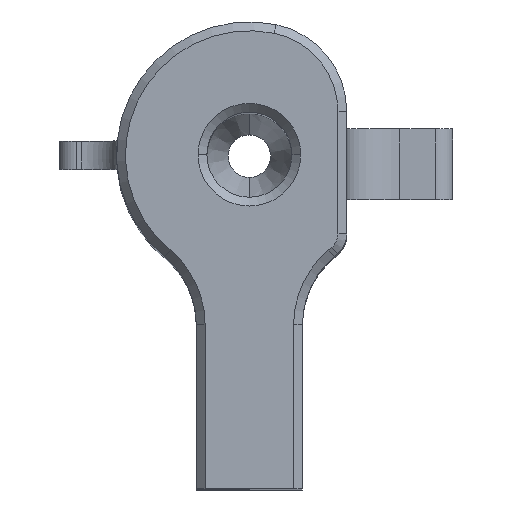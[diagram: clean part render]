
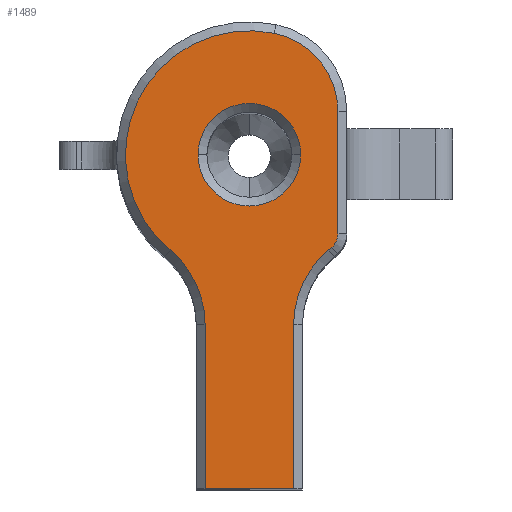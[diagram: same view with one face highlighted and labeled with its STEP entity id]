
A CAD part, top view. The second image highlights one B-rep face of the part: STEP entity #1489.
In plain terms, the highlighted planar face has unit normal (0, 0, 1).
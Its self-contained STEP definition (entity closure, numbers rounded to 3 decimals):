
#177=DIRECTION('',(0.,-1.,0.));
#178=VECTOR('',#177,9.269);
#179=CARTESIAN_POINT('',(2.5,-9.605,58.));
#180=LINE('',#179,#178);
#181=DIRECTION('',(-1.,0.,0.));
#182=VECTOR('',#181,5.);
#183=CARTESIAN_POINT('',(2.5,-18.874,58.));
#184=LINE('',#183,#182);
#185=DIRECTION('',(0.,1.,0.));
#186=VECTOR('',#185,9.269);
#187=CARTESIAN_POINT('',(-2.5,-18.874,58.));
#188=LINE('',#187,#186);
#189=CARTESIAN_POINT('',(-8.,-9.605,58.));
#190=DIRECTION('',(0.,0.,1.));
#191=DIRECTION('',(1.,0.,0.));
#192=AXIS2_PLACEMENT_3D('',#189,#190,#191);
#194=CARTESIAN_POINT('',(0.,0.,58.));
#195=DIRECTION('',(0.,0.,-1.));
#196=DIRECTION('',(-0.64,-0.768,0.));
#197=AXIS2_PLACEMENT_3D('',#194,#195,#196);
#199=CARTESIAN_POINT('',(0.5,2.449,58.));
#200=DIRECTION('',(0.,0.,-1.));
#201=DIRECTION('',(0.2,0.98,0.));
#202=AXIS2_PLACEMENT_3D('',#199,#200,#201);
#204=DIRECTION('',(0.,-1.,0.));
#205=VECTOR('',#204,6.922);
#206=CARTESIAN_POINT('',(5.,2.449,58.));
#207=LINE('',#206,#205);
#208=CARTESIAN_POINT('',(4.,-4.472,58.));
#209=DIRECTION('',(0.,0.,-1.));
#210=DIRECTION('',(1.,0.,0.));
#211=AXIS2_PLACEMENT_3D('',#208,#209,#210);
#213=CARTESIAN_POINT('',(0.,0.,58.));
#214=DIRECTION('',(0.,0.,-1.));
#215=DIRECTION('',(0.667,-0.745,0.));
#216=AXIS2_PLACEMENT_3D('',#213,#214,#215);
#218=CARTESIAN_POINT('',(8.,-9.605,58.));
#219=DIRECTION('',(0.,0.,1.));
#220=DIRECTION('',(-0.64,0.768,0.));
#221=AXIS2_PLACEMENT_3D('',#218,#219,#220);
#223=CARTESIAN_POINT('',(0.,0.,58.));
#224=DIRECTION('',(0.,0.,-1.));
#225=DIRECTION('',(1.,0.,0.));
#226=AXIS2_PLACEMENT_3D('',#223,#224,#225);
#228=CARTESIAN_POINT('',(0.,0.,58.));
#229=DIRECTION('',(0.,0.,-1.));
#230=DIRECTION('',(-1.,0.,0.));
#231=AXIS2_PLACEMENT_3D('',#228,#229,#230);
#1088=CARTESIAN_POINT('',(2.5,-18.874,58.));
#1090=VERTEX_POINT('',#1088);
#1091=CARTESIAN_POINT('',(2.5,-9.605,58.));
#1092=VERTEX_POINT('',#1091);
#1097=CARTESIAN_POINT('',(4.48,-5.379,58.));
#1098=VERTEX_POINT('',#1097);
#1101=CARTESIAN_POINT('',(4.667,-5.217,58.));
#1102=VERTEX_POINT('',#1101);
#1105=CARTESIAN_POINT('',(5.,-4.472,58.));
#1106=VERTEX_POINT('',#1105);
#1109=CARTESIAN_POINT('',(5.,2.449,58.));
#1110=VERTEX_POINT('',#1109);
#1113=CARTESIAN_POINT('',(1.4,6.859,58.));
#1114=VERTEX_POINT('',#1113);
#1117=CARTESIAN_POINT('',(-4.48,-5.379,58.));
#1118=VERTEX_POINT('',#1117);
#1121=CARTESIAN_POINT('',(-2.5,-9.605,58.));
#1122=VERTEX_POINT('',#1121);
#1123=CARTESIAN_POINT('',(-2.5,-18.874,58.));
#1125=VERTEX_POINT('',#1123);
#1151=CARTESIAN_POINT('',(2.9,0.,58.));
#1152=CARTESIAN_POINT('',(-2.9,0.,58.));
#1153=VERTEX_POINT('',#1151);
#1154=VERTEX_POINT('',#1152);
#1457=CARTESIAN_POINT('',(0.,0.,58.));
#1458=DIRECTION('',(0.,0.,1.));
#1459=DIRECTION('',(1.,0.,0.));
#1460=AXIS2_PLACEMENT_3D('',#1457,#1458,#1459);
#1461=PLANE('',#1460);
#1463=ORIENTED_EDGE('',*,*,#1462,.T.);
#1465=ORIENTED_EDGE('',*,*,#1464,.T.);
#1467=ORIENTED_EDGE('',*,*,#1466,.T.);
#1469=ORIENTED_EDGE('',*,*,#1468,.T.);
#1471=ORIENTED_EDGE('',*,*,#1470,.T.);
#1473=ORIENTED_EDGE('',*,*,#1472,.T.);
#1475=ORIENTED_EDGE('',*,*,#1474,.T.);
#1477=ORIENTED_EDGE('',*,*,#1476,.T.);
#1479=ORIENTED_EDGE('',*,*,#1478,.T.);
#1481=ORIENTED_EDGE('',*,*,#1480,.T.);
#1482=EDGE_LOOP('',(#1463,#1465,#1467,#1469,#1471,#1473,#1475,#1477,#1479,
#1481));
#1483=FACE_OUTER_BOUND('',#1482,.F.);
#1484=ORIENTED_EDGE('',*,*,#1447,.F.);
#1486=ORIENTED_EDGE('',*,*,#1485,.F.);
#1487=EDGE_LOOP('',(#1484,#1486));
#1488=FACE_BOUND('',#1487,.F.);
#1489=ADVANCED_FACE('',(#1483,#1488),#1461,.T.);
#193=CIRCLE('',#192,5.5);
#198=CIRCLE('',#197,7.);
#203=CIRCLE('',#202,4.5);
#212=CIRCLE('',#211,1.);
#217=CIRCLE('',#216,7.);
#222=CIRCLE('',#221,5.5);
#227=CIRCLE('',#226,2.9);
#232=CIRCLE('',#231,2.9);
#1447=EDGE_CURVE('',#1153,#1154,#227,.T.);
#1462=EDGE_CURVE('',#1092,#1090,#180,.T.);
#1464=EDGE_CURVE('',#1090,#1125,#184,.T.);
#1466=EDGE_CURVE('',#1125,#1122,#188,.T.);
#1468=EDGE_CURVE('',#1122,#1118,#193,.T.);
#1470=EDGE_CURVE('',#1118,#1114,#198,.T.);
#1472=EDGE_CURVE('',#1114,#1110,#203,.T.);
#1474=EDGE_CURVE('',#1110,#1106,#207,.T.);
#1476=EDGE_CURVE('',#1106,#1102,#212,.T.);
#1478=EDGE_CURVE('',#1102,#1098,#217,.T.);
#1480=EDGE_CURVE('',#1098,#1092,#222,.T.);
#1485=EDGE_CURVE('',#1154,#1153,#232,.T.);
